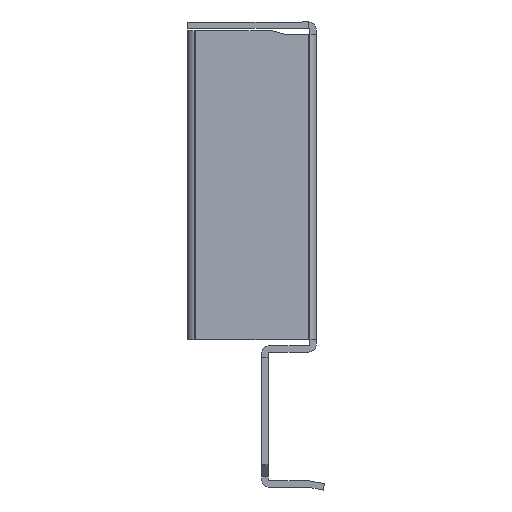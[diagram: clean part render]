
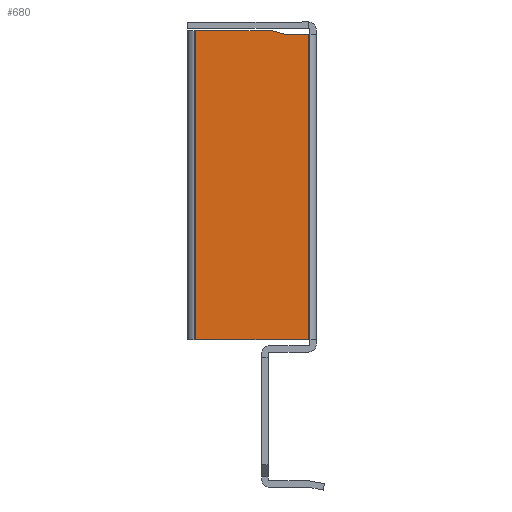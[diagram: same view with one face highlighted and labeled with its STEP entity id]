
A CAD part, left-side view. The second image highlights one B-rep face of the part: STEP entity #680.
In plain terms, the highlighted planar face has unit normal (-1, 0, 0).
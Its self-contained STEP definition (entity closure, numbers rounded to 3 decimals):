
#25 = VERTEX_POINT ( 'NONE', #435 ) ;
#110 = DIRECTION ( 'NONE',  ( 0., -1., 0. ) ) ;
#112 = DIRECTION ( 'NONE',  ( -1., 0., 0. ) ) ;
#113 = CARTESIAN_POINT ( 'NONE',  ( -155., -5., 74.385 ) ) ;
#114 = PLANE ( 'NONE',  #2418 ) ;
#121 = VERTEX_POINT ( 'NONE', #413 ) ;
#288 = CARTESIAN_POINT ( 'NONE',  ( -155., 9., 17.5 ) ) ;
#306 = CARTESIAN_POINT ( 'NONE',  ( -155., -5., 17.5 ) ) ;
#351 = CARTESIAN_POINT ( 'NONE',  ( -155., -2., 55.5 ) ) ;
#363 = CARTESIAN_POINT ( 'NONE',  ( -155., -0.507, 55.9 ) ) ;
#413 = CARTESIAN_POINT ( 'NONE',  ( -155., 9., 55.9 ) ) ;
#435 = CARTESIAN_POINT ( 'NONE',  ( -155., -5., 55.5 ) ) ;
#450 = VERTEX_POINT ( 'NONE', #363 ) ;
#462 = VERTEX_POINT ( 'NONE', #351 ) ;
#523 = VERTEX_POINT ( 'NONE', #306 ) ;
#537 = VERTEX_POINT ( 'NONE', #288 ) ;
#680 = ADVANCED_FACE ( 'NONE', ( #1407 ), #114, .T. ) ;
#732 = DIRECTION ( 'NONE',  ( 0., 0., -1. ) ) ;
#733 = CARTESIAN_POINT ( 'NONE',  ( -155., -5., 74.385 ) ) ;
#735 = DIRECTION ( 'NONE',  ( 0., -0.966, -0.259 ) ) ;
#736 = CARTESIAN_POINT ( 'NONE',  ( -155., 0.612, 56.2 ) ) ;
#739 = DIRECTION ( 'NONE',  ( 0., -1., 0. ) ) ;
#740 = CARTESIAN_POINT ( 'NONE',  ( -155., -2., 55.5 ) ) ;
#741 = DIRECTION ( 'NONE',  ( 0., 0., -1. ) ) ;
#742 = CARTESIAN_POINT ( 'NONE',  ( -155., 9., 74.385 ) ) ;
#881 = EDGE_LOOP ( 'NONE', ( #1261, #1262, #1263, #1264, #1265, #1266 ) ) ;
#1261 = ORIENTED_EDGE ( 'NONE', *, *, #2319, .F. ) ;
#1262 = ORIENTED_EDGE ( 'NONE', *, *, #2320, .F. ) ;
#1263 = ORIENTED_EDGE ( 'NONE', *, *, #2192, .T. ) ;
#1264 = ORIENTED_EDGE ( 'NONE', *, *, #2318, .T. ) ;
#1265 = ORIENTED_EDGE ( 'NONE', *, *, #2187, .F. ) ;
#1266 = ORIENTED_EDGE ( 'NONE', *, *, #2321, .F. ) ;
#1407 = FACE_OUTER_BOUND ( 'NONE', #881, .T. ) ;
#1503 = LINE ( 'NONE', #2003, #1505 ) ;
#1505 = VECTOR ( 'NONE', #2002, 1000. ) ;
#1513 = LINE ( 'NONE', #1966, #1514 ) ;
#1514 = VECTOR ( 'NONE', #1963, 1000. ) ;
#1741 = LINE ( 'NONE', #742, #1742 ) ;
#1742 = VECTOR ( 'NONE', #741, 1000. ) ;
#1743 = LINE ( 'NONE', #740, #1744 ) ;
#1744 = VECTOR ( 'NONE', #739, 1000. ) ;
#1745 = LINE ( 'NONE', #736, #1746 ) ;
#1746 = VECTOR ( 'NONE', #735, 1000. ) ;
#1747 = LINE ( 'NONE', #733, #1748 ) ;
#1748 = VECTOR ( 'NONE', #732, 1000. ) ;
#1963 = DIRECTION ( 'NONE',  ( 0., 1., 0. ) ) ;
#1966 = CARTESIAN_POINT ( 'NONE',  ( -155., -5., 55.9 ) ) ;
#2002 = DIRECTION ( 'NONE',  ( 0., 1., 0. ) ) ;
#2003 = CARTESIAN_POINT ( 'NONE',  ( -155., -5., 17.5 ) ) ;
#2187 = EDGE_CURVE ( 'NONE', #523, #537, #1503, .T. ) ;
#2192 = EDGE_CURVE ( 'NONE', #450, #121, #1513, .T. ) ;
#2318 = EDGE_CURVE ( 'NONE', #121, #537, #1741, .T. ) ;
#2319 = EDGE_CURVE ( 'NONE', #462, #25, #1743, .T. ) ;
#2320 = EDGE_CURVE ( 'NONE', #450, #462, #1745, .T. ) ;
#2321 = EDGE_CURVE ( 'NONE', #25, #523, #1747, .T. ) ;
#2418 = AXIS2_PLACEMENT_3D ( 'NONE', #113, #112, #110 ) ;
